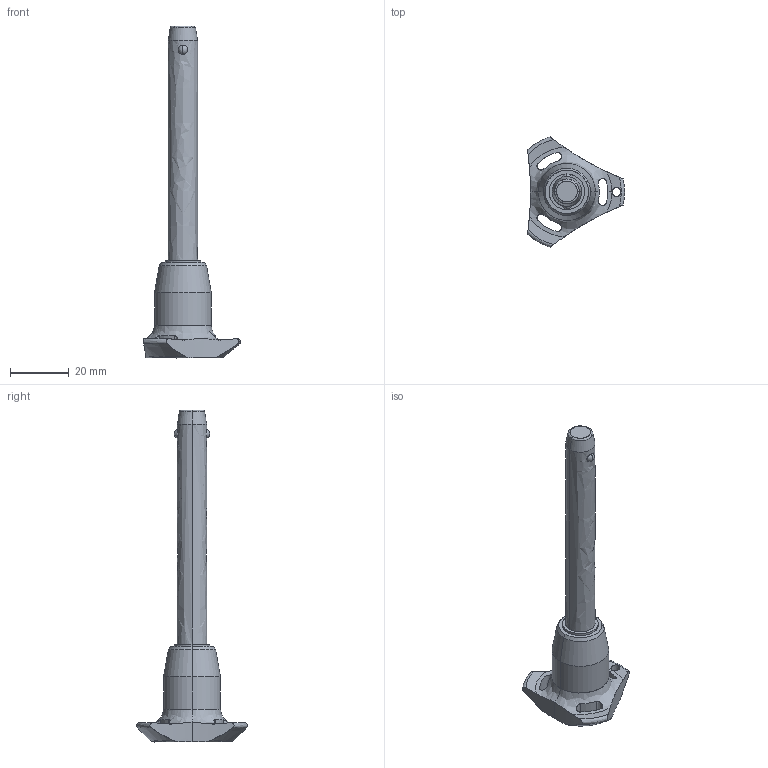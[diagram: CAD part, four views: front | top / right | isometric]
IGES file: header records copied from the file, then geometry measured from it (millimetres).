
Start section: SolidWorks IGES file using analytic representation for surfaces
Global section: file name: C:\Users\ianosborn\Desktop\QR1714_v2\QR1714_v2_20251112_IGES\QR1714.M10-070-S.igs; native system: SolidWorks 2019; preprocessor: SolidWorks 2019; author: IanOsborn; date: 251112.100953; units: millimetre
Bounding box: 33 x 37.51 x 112.9 mm (x, y, z)
Surface area: 6363.5 mm2 (no closed solid volume)
Topology: 0 solids, 0 shells, 65 faces, 1282 edges, 1278 vertices
Faces by surface type: revolution 50, bspline 15
